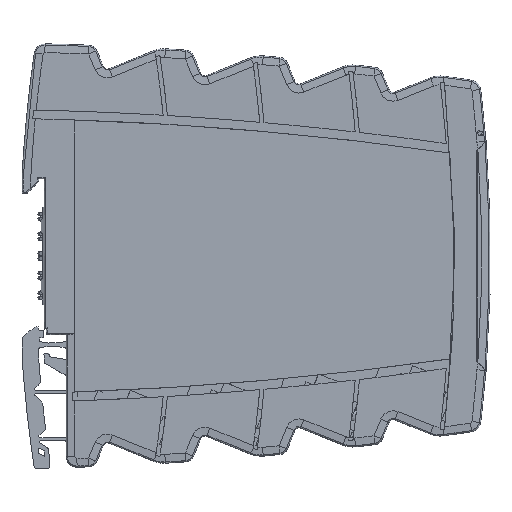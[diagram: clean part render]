
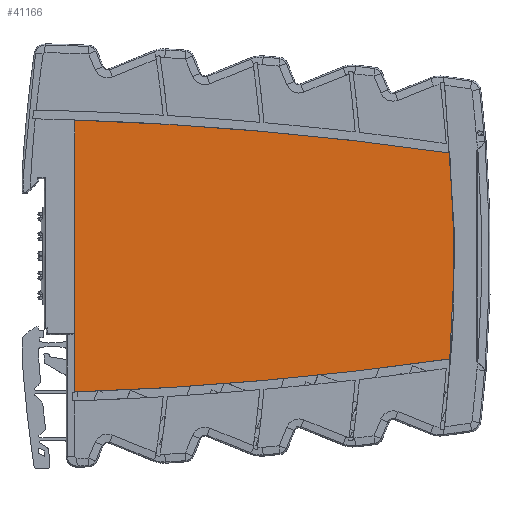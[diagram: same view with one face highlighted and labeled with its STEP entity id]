
A CAD part, top view. The second image highlights one B-rep face of the part: STEP entity #41166.
In plain terms, the highlighted planar face has unit normal (0, 0, 1).
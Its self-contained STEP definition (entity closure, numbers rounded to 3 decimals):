
#976=ELLIPSE('',#44154,786.098,783.585);
#1021=ELLIPSE('',#44231,786.098,783.585);
#2193=PLANE('',#44230);
#4871=FACE_OUTER_BOUND('',#7229,.T.);
#7229=EDGE_LOOP('',(#36477,#36478,#36479,#36480,#36481));
#10882=LINE('',#69771,#15451);
#11025=LINE('',#71622,#15594);
#15451=VECTOR('',#51785,13.309);
#15594=VECTOR('',#52284,48.54);
#17447=CIRCLE('',#44232,329.932);
#20107=VERTEX_POINT('',#69768);
#20108=VERTEX_POINT('',#69770);
#20309=VERTEX_POINT('',#71621);
#20600=VERTEX_POINT('',#72942);
#20631=VERTEX_POINT('',#73452);
#25254=EDGE_CURVE('',#20108,#20107,#10882,.T.);
#25572=EDGE_CURVE('',#20309,#20108,#11025,.T.);
#26056=EDGE_CURVE('',#20600,#20309,#976,.T.);
#26180=EDGE_CURVE('',#20107,#20631,#1021,.T.);
#26181=EDGE_CURVE('',#20631,#20600,#17447,.T.);
#36477=ORIENTED_EDGE('',*,*,#25572,.T.);
#36478=ORIENTED_EDGE('',*,*,#25254,.T.);
#36479=ORIENTED_EDGE('',*,*,#26180,.T.);
#36480=ORIENTED_EDGE('',*,*,#26181,.T.);
#36481=ORIENTED_EDGE('',*,*,#26056,.T.);
#41166=ADVANCED_FACE('',(#4871),#2193,.T.);
#44154=AXIS2_PLACEMENT_3D('',#72943,#53143,#53144);
#44230=AXIS2_PLACEMENT_3D('',#73451,#53373,#53374);
#44231=AXIS2_PLACEMENT_3D('',#73453,#53375,#53376);
#44232=AXIS2_PLACEMENT_3D('',#73454,#53377,#53378);
#51785=DIRECTION('',(0.,-1.,0.));
#52284=DIRECTION('',(0.,-1.,0.));
#53143=DIRECTION('center_axis',(0.,0.,
1.));
#53144=DIRECTION('ref_axis',(1.,0.,0.));
#53373=DIRECTION('center_axis',(0.,0.,
1.));
#53374=DIRECTION('ref_axis',(1.,0.,0.));
#53375=DIRECTION('center_axis',(0.,0.,1.));
#53376=DIRECTION('ref_axis',(1.,0.,0.));
#53377=DIRECTION('center_axis',(0.,0.,
1.));
#53378=DIRECTION('ref_axis',(0.,1.,0.));
#69768=CARTESIAN_POINT('',(7.029,-30.924,3.1));
#69770=CARTESIAN_POINT('',(7.029,-17.615,3.1));
#69771=CARTESIAN_POINT('',(7.029,-10.295,3.1));
#71621=CARTESIAN_POINT('',(7.029,30.925,3.1));
#71622=CARTESIAN_POINT('',(7.029,-10.295,3.1));
#72942=CARTESIAN_POINT('',(92.247,23.407,3.1));
#72943=CARTESIAN_POINT('Origin',(-19.556,-752.212,3.1));
#73451=CARTESIAN_POINT('Origin',(40.86,-2.676,3.1));
#73452=CARTESIAN_POINT('',(92.247,-23.407,3.1));
#73453=CARTESIAN_POINT('Origin',(-19.556,752.212,3.1));
#73454=CARTESIAN_POINT('Origin',(-236.854,0.,
3.1));
